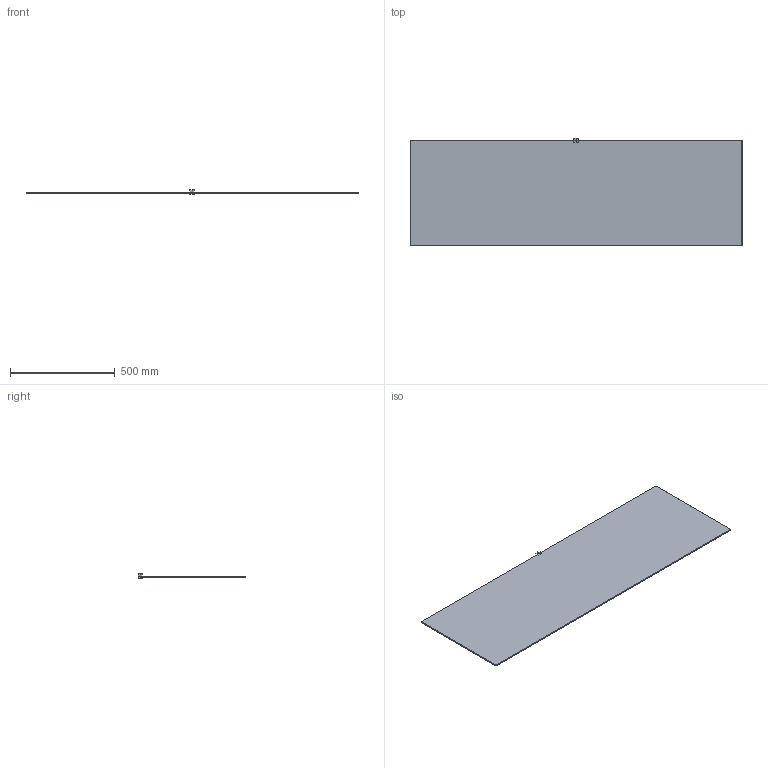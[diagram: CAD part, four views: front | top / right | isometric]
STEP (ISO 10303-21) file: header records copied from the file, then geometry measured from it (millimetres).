
FILE_DESCRIPTION((''),'2;1');
FILE_NAME('T4202_3DPL','2019-09-20T',('GeorgievIS'),('AMERICAN STANDARD B&K'),'CREO PARAMETRIC BY PTC INC, 2016130','CREO PARAMETRIC BY PTC INC, 2016130','');
FILE_SCHEMA(('CONFIG_CONTROL_DESIGN'));
Length unit declared in the file: millimetre
Products named in the file (1): T4202_3DPL
Bounding box: 1585 x 515 x 20 mm (x, y, z)
Volume: 4802478 mm3; surface area: 1626410.3 mm2
Topology: 1 solids, 4 shells, 29 faces, 60 edges, 36 vertices
Faces by surface type: cylinder 12, plane 9, sphere 8
Entity records: 794 total; most frequent: DIRECTION 144, CARTESIAN_POINT 126, ORIENTED_EDGE 108, EDGE_CURVE 60, AXIS2_PLACEMENT_3D 54, VECTOR 36, LINE 36, VERTEX_POINT 36
